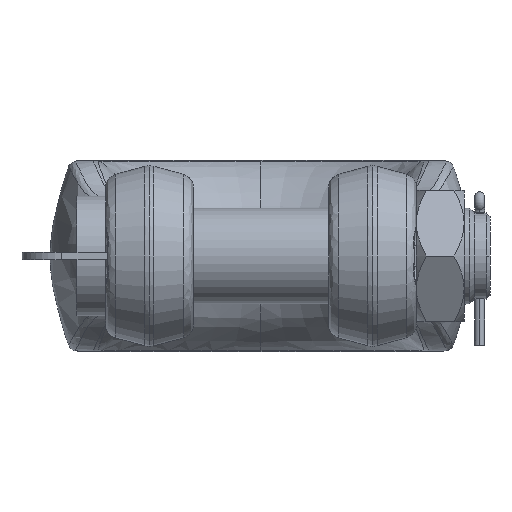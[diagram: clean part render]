
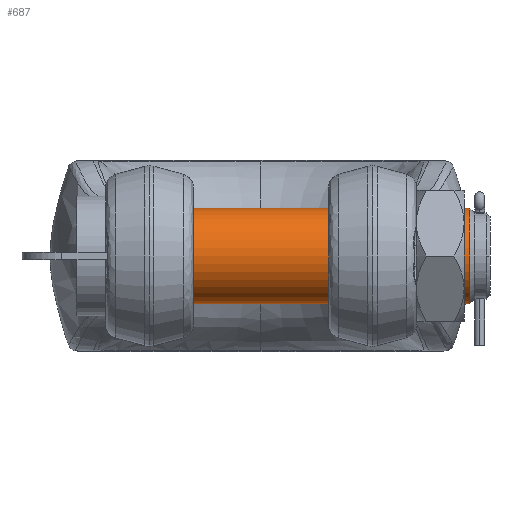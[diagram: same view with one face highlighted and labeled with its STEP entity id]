
A CAD part, front view. The second image highlights one B-rep face of the part: STEP entity #687.
In plain terms, the highlighted cylindrical face has radius 60 mm (diameter 120 mm), a partial arc.
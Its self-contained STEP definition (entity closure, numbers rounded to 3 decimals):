
#687=ADVANCED_FACE('NONE',(#1966),#1967,.T.);
#1966=FACE_OUTER_BOUND('',#3918,.T.);
#1967=CYLINDRICAL_SURFACE('',#3919,60.0);
#3918=EDGE_LOOP('',(#93916,#93917,#93918,#93919));
#3919=AXIS2_PLACEMENT_3D('',#93920,#93921,#93922);
#93916=ORIENTED_EDGE('',*,*,#98609,.T.);
#93917=ORIENTED_EDGE('',*,*,#98612,.T.);
#93918=ORIENTED_EDGE('',*,*,#98613,.T.);
#93919=ORIENTED_EDGE('',*,*,#98614,.F.);
#93920=CARTESIAN_POINT('',(-195.0,0.0,0.0));
#93921=DIRECTION('',(-1.0,0.0,0.0));
#93922=DIRECTION('',(0.0,0.0,1.0));
#98609=EDGE_CURVE('NONE',#100791,#100789,#100792,.T.);
#98612=EDGE_CURVE('NONE',#100789,#100795,#100796,.T.);
#98613=EDGE_CURVE('NONE',#100795,#100797,#100798,.T.);
#98614=EDGE_CURVE('NONE',#100791,#100797,#100799,.T.);
#100789=VERTEX_POINT('NONE',#104101);
#100791=VERTEX_POINT('NONE',#104103);
#100792=CIRCLE('',#104104,60.0);
#100795=VERTEX_POINT('NONE',#104107);
#100796=LINE('',#104108,#104109);
#100797=VERTEX_POINT('NONE',#104110);
#100798=CIRCLE('',#104111,60.0);
#100799=LINE('',#104112,#104113);
#104101=CARTESIAN_POINT('',(-192.0,0.,-60.0));
#104103=CARTESIAN_POINT('',(-192.0,0.0,60.0));
#104104=AXIS2_PLACEMENT_3D('',#134304,#134305,#134306);
#104107=CARTESIAN_POINT('',(262.0,0.0,-60.));
#104108=CARTESIAN_POINT('',(-195.0,0.,-60.0));
#104109=VECTOR('',#134310,1000.0);
#104110=CARTESIAN_POINT('',(262.0,0.,60.));
#104111=AXIS2_PLACEMENT_3D('',#134311,#134312,#134313);
#104112=CARTESIAN_POINT('',(-195.0,0.0,60.0));
#104113=VECTOR('',#134314,1000.0);
#134304=CARTESIAN_POINT('',(-192.0,0.0,0.0));
#134305=DIRECTION('',(1.0,0.0,-0.0));
#134306=DIRECTION('',(0.0,0.0,1.0));
#134310=DIRECTION('',(1.0,0.0,-0.0));
#134311=CARTESIAN_POINT('',(262.0,0.0,0.0));
#134312=DIRECTION('',(-1.0,0.0,0.0));
#134313=DIRECTION('',(0.0,0.0,1.0));
#134314=DIRECTION('',(1.0,0.0,-0.0));
